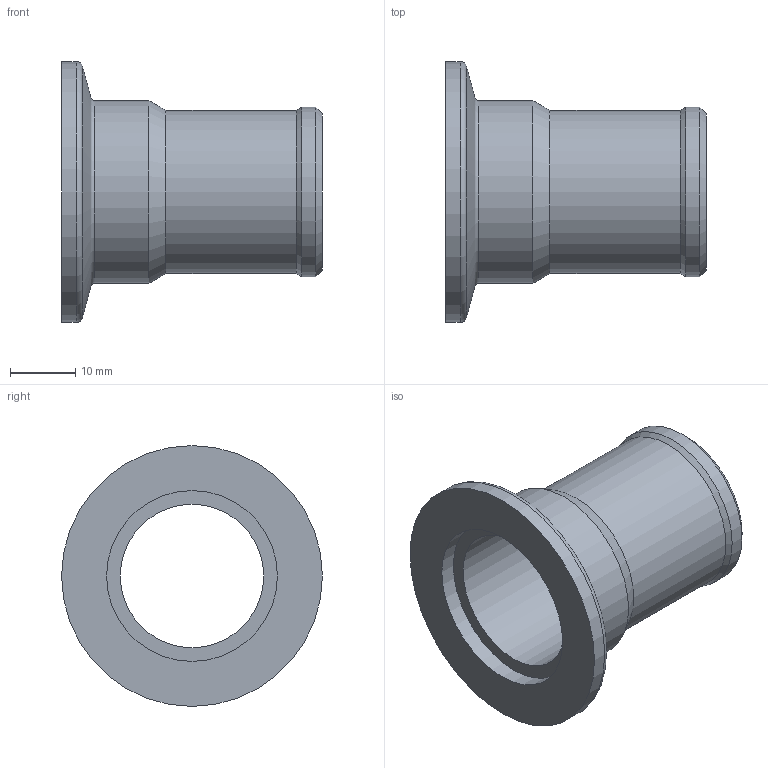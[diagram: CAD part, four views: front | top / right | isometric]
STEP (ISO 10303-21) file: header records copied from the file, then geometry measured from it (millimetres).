
FILE_DESCRIPTION(/* description */ (''),/* implementation_level */ '2;1');
FILE_NAME(/* name */ '18246.step',/* time_stamp */ '2015-03-05T16:26:39+08:00',/* author */ (''),/* organization */ (''),/* preprocessor_version */ 'ST-DEVELOPER v11',/* originating_system */ 'SIEMENS UGS NX 6.0',/* authorisation */ '');
FILE_SCHEMA (('AUTOMOTIVE_DESIGN { 1 0 10303 214 1 1 1 1 }'));
Length unit declared in the file: millimetre
Products named in the file (1): 18246
Bounding box: 40 x 40 x 40 mm (x, y, z)
Volume: 8365 mm3; surface area: 7706 mm2
Topology: 1 solids, 1 shells, 15 faces, 29 edges, 17 vertices
Faces by surface type: cylinder 6, cone 4, plane 3, torus 2
Full cylindrical faces by diameter (mm): 22 x1, 25 x1, 26 x1, 26.2 x1, 28 x1, 40 x1
Entity records: 332 total; most frequent: DIRECTION 62, CARTESIAN_POINT 46, AXIS2_PLACEMENT_3D 31, FACE_BOUND 30, EDGE_LOOP 30, ORIENTED_EDGE 30, ADVANCED_FACE 15, VERTEX_POINT 15
